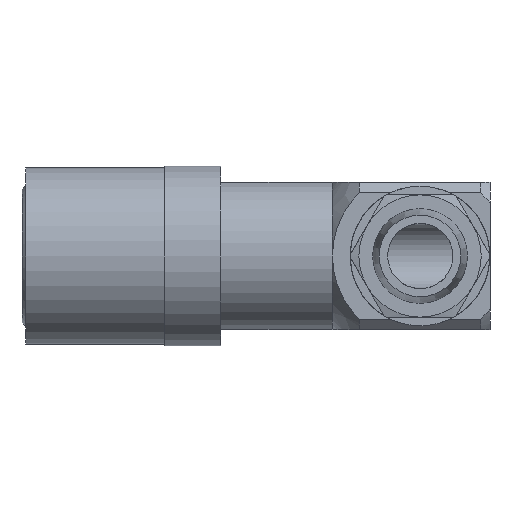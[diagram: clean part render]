
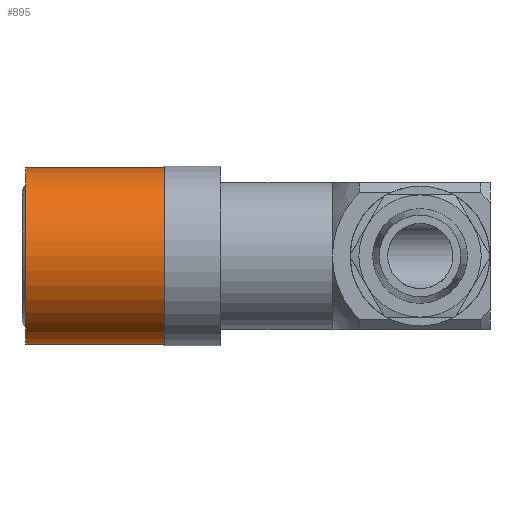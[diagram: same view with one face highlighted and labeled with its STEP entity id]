
A CAD part, front view. The second image highlights one B-rep face of the part: STEP entity #895.
In plain terms, the highlighted cylindrical face has radius 8.509 mm (diameter 17.018 mm), a full revolution.
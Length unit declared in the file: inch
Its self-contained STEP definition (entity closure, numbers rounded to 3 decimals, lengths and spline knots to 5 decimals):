
#277=ORIENTED_EDGE('',*,*,#501,.F.);
#278=ORIENTED_EDGE('',*,*,#500,.T.);
#500=EDGE_CURVE('',#598,#598,#673,.T.);
#501=EDGE_CURVE('',#599,#599,#674,.T.);
#598=VERTEX_POINT('',#1632);
#599=VERTEX_POINT('',#1635);
#673=CIRCLE('',#1030,0.335);
#674=CIRCLE('',#1032,0.335);
#719=EDGE_LOOP('',(#277));
#720=EDGE_LOOP('',(#278));
#805=FACE_BOUND('',#719,.T.);
#806=FACE_BOUND('',#720,.T.);
#865=CYLINDRICAL_SURFACE('',#1031,0.335);
#895=ADVANCED_FACE('',(#805,#806),#865,.T.);
#1030=AXIS2_PLACEMENT_3D('',#1631,#1277,#1278);
#1031=AXIS2_PLACEMENT_3D('',#1633,#1279,#1280);
#1032=AXIS2_PLACEMENT_3D('',#1634,#1281,#1282);
#1277=DIRECTION('',(1.,0.,0.));
#1278=DIRECTION('',(0.,0.,-1.));
#1279=DIRECTION('',(1.,0.,0.));
#1280=DIRECTION('',(0.,0.,-1.));
#1281=DIRECTION('',(1.,0.,0.));
#1282=DIRECTION('',(0.,0.,-1.));
#1631=CARTESIAN_POINT('',(0.,0.,0.));
#1632=CARTESIAN_POINT('',(0.,0.,-0.335));
#1633=CARTESIAN_POINT('',(1.93515,0.,0.));
#1634=CARTESIAN_POINT('',(0.53,0.,0.));
#1635=CARTESIAN_POINT('',(0.53,0.,-0.335));
